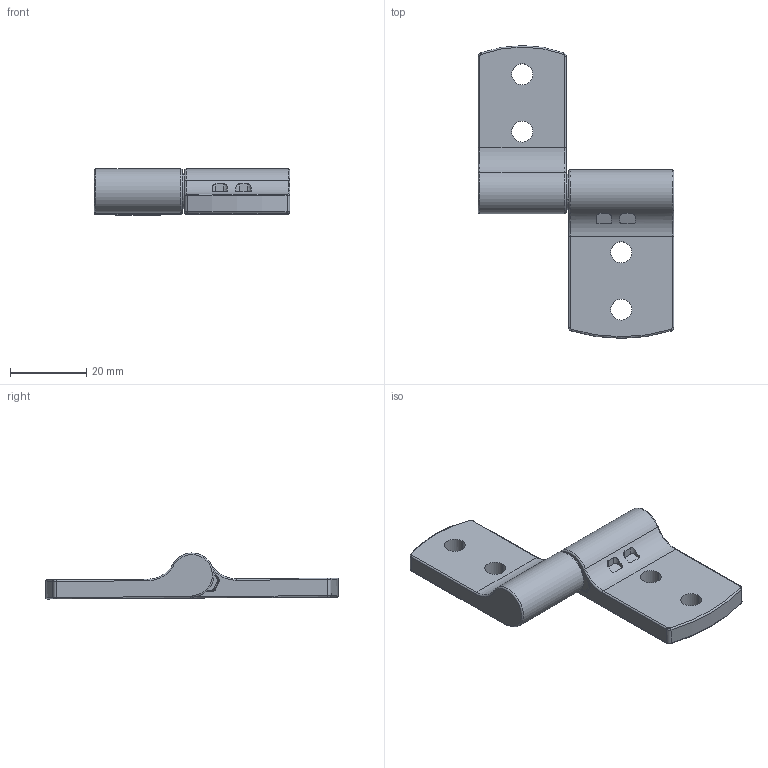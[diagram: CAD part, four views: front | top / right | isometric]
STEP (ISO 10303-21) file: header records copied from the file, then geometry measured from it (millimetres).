
FILE_DESCRIPTION((''),'2;1');
FILE_NAME('HINGE_ASM_ASM','2020-07-20T13:43:30',('SJ'),(''),'CREO PARAMETRIC BY PTC INC, 2017260','CREO PARAMETRIC BY PTC INC, 2017260','');
FILE_SCHEMA(('CONFIG_CONTROL_DESIGN'));
Length unit declared in the file: millimetre
Products named in the file (10): CL23900_6; NSD-00005007_A_STEP_4; T-YB2118-01_3; ST-11A-140SA-50_10001_ASM_14_ASM; HINGE_XING_ASM_11_ASM; NSD-00005008_A_STEP_14; HINGE_DONG_ASM_3_ASM; NSD-00005010_A_STEP_9; HINGE_ASM_15_ASM; HINGE_ASM_ASM
Assembly tree (9 placements, depth 5):
  HINGE_ASM_ASM
    HINGE_ASM_15_ASM
      HINGE_XING_ASM_11_ASM
        ST-11A-140SA-50_10001_ASM_14_ASM
          CL23900_6
          NSD-00005007_A_STEP_4
          T-YB2118-01_3
      HINGE_DONG_ASM_3_ASM
        NSD-00005008_A_STEP_14
      NSD-00005010_A_STEP_9
Bounding box: 51.15 x 76.63 x 12.04 mm (x, y, z)
Volume: 12650.3 mm3; surface area: 8180.6 mm2
Topology: 5 solids, 5 shells, 288 faces, 745 edges, 474 vertices
Faces by surface type: plane 144, cylinder 86, torus 34, cone 12, extrusion 12
Entity records: 9319 total; most frequent: CARTESIAN_POINT 1918, DIRECTION 1585, ORIENTED_EDGE 1490, EDGE_CURVE 745, AXIS2_PLACEMENT_3D 620, VERTEX_POINT 474, VECTOR 345, LINE 333
